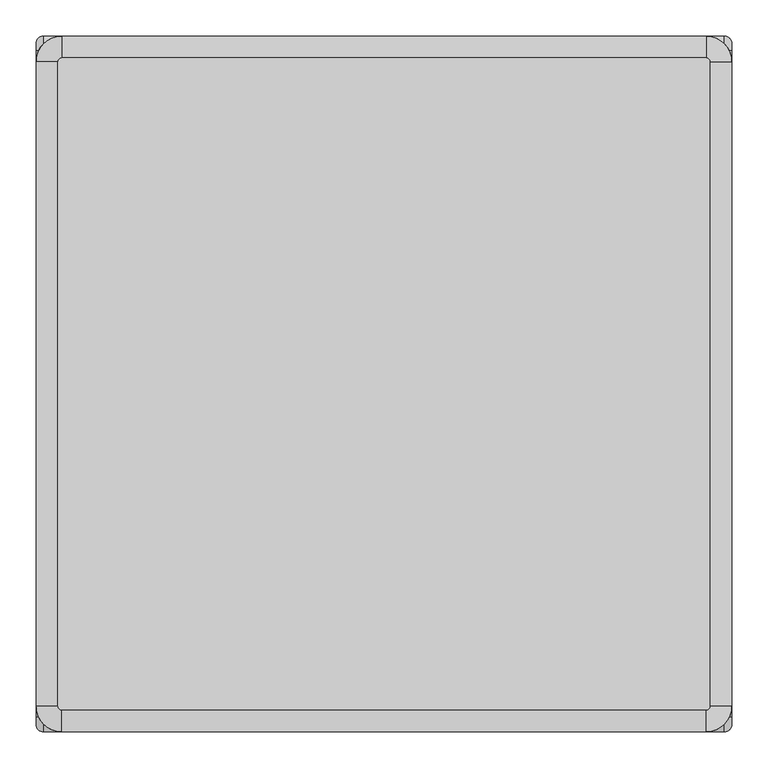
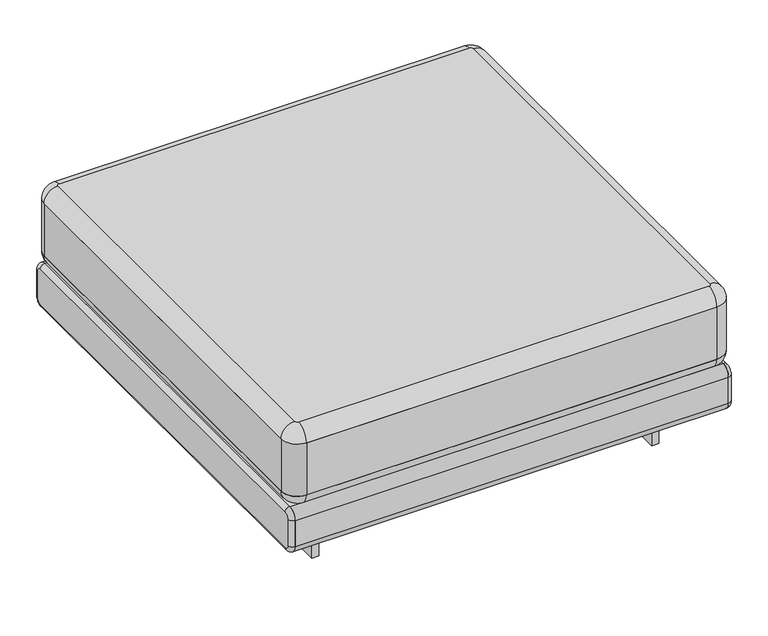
"""IFC4 building model written with IfcOpenShell, lengths in millimetres: furniture geometry, Ottoman_Bensen_Elle_ELS000 : Ottoman_Bensen_Elle_ELS000."""

from ifc_helpers import new_model, si_unit, point, frame, frame_2d, origin, origin_with_axes, place, context, project, spatial, polyline, circle_curve, ellipse_curve, trimmed, segment, composite_curve, outline, extrude, source, transform, mapped, element, save
from ifc_brep_helpers import plane_surface, cylinder_surface, revolved_surface, advanced_brep


def furniture_ca96096a(model_context):
    return source(origin(), model_context, "Body", "SolidModel", [
        advanced_brep(
        [(445.0, -449.9876377, 379.9974), (450.0, -444.9876377, 379.9973967), (450.0, 445.0123623, 379.9967943), (445.0, 450.0123623, 379.9967909), (-445.0, 450.0123623, 379.9967909), (-450.0, 445.0123623, 379.9967943), (-450.0, -444.9876377, 379.9973967), (-445.0, -449.9876377, 379.9974), (480.0, -444.987658, 349.9973967), (445.0, -479.987658, 349.9974203), (-445.0, -479.987658, 349.9974203), (-480.0, -444.987658, 349.9973967), (-480.0, 445.012342, 349.9967943), (-445.0, 480.012342, 349.9967706), (445.0, 480.012342, 349.9967706), (480.0, 445.012342, 349.9967943)],
        [
            (0, 1, circle_curve(frame((445.0, -444.9876377, 379.9973967), z_axis=(0.0, 6.768624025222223e-07, 0.999999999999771), x_axis=(1.0, 0.0, 0.0)), 5.0)),
            (1, 2),
            (2, 3, circle_curve(frame((445.0, 445.0123623, 379.9967943), z_axis=(0.0, 6.768624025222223e-07, 0.999999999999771), x_axis=(0.0, 0.999999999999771, -6.768624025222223e-07)), 5.0)),
            (3, 4),
            (4, 5, circle_curve(frame((-445.0, 445.0123623, 379.9967943), z_axis=(0.0, 6.768624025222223e-07, 0.999999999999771), x_axis=(-1.0, 0.0, 0.0)), 5.0)),
            (5, 6),
            (6, 7, circle_curve(frame((-445.0, -444.9876377, 379.9973967), z_axis=(0.0, 6.768624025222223e-07, 0.999999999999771), x_axis=(0.0, -0.999999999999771, 6.768624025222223e-07)), 5.0)),
            (7, 0),
            (8, 9, circle_curve(frame((445.0, -444.987658, 349.9973967), z_axis=(0.0, -6.768624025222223e-07, -0.999999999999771), x_axis=(1.0, 0.0, 0.0)), 35.0)),
            (9, 10),
            (10, 11, circle_curve(frame((-445.0, -444.987658, 349.9973967), z_axis=(0.0, -6.768624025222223e-07, -0.999999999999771), x_axis=(0.0, -0.999999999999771, 6.768624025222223e-07)), 35.0)),
            (11, 12),
            (12, 13, circle_curve(frame((-445.0, 445.012342, 349.9967943), z_axis=(0.0, -6.768624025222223e-07, -0.999999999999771), x_axis=(-1.0, 0.0, 0.0)), 35.0)),
            (13, 14),
            (14, 15, circle_curve(frame((445.0, 445.012342, 349.9967943), z_axis=(0.0, -6.768624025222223e-07, -0.999999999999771), x_axis=(0.0, 0.999999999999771, -6.768624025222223e-07)), 35.0)),
            (15, 8),
            (8, 1, circle_curve(frame((450.0, -444.987658, 349.9973967), z_axis=(0.0, -0.999999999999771, 6.768624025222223e-07), x_axis=(1.0, 0.0, 0.0)), 30.0)),
            (0, 9, circle_curve(frame((445.0, -449.987658, 349.9974), z_axis=(1.0, 0.0, 0.0), x_axis=(0.0, -0.999999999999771, 6.768624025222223e-07)), 30.0)),
            (7, 10, circle_curve(frame((-445.0, -449.987658, 349.9974), z_axis=(1.0, 0.0, 0.0), x_axis=(0.0, -0.999999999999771, 6.768624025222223e-07)), 30.0)),
            (6, 11, circle_curve(frame((-450.0, -444.987658, 349.9973967), z_axis=(0.0, -0.999999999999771, 6.768624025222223e-07), x_axis=(-1.0, 0.0, 0.0)), 30.0)),
            (5, 12, circle_curve(frame((-450.0, 445.012342, 349.9967943), z_axis=(0.0, -0.999999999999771, 6.768624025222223e-07), x_axis=(-1.0, 0.0, 0.0)), 30.0)),
            (4, 13, circle_curve(frame((-445.0, 450.012342, 349.9967909), z_axis=(-1.0, 0.0, 0.0), x_axis=(0.0, 0.999999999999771, -6.768624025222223e-07)), 30.0)),
            (3, 14, circle_curve(frame((445.0, 450.012342, 349.9967909), z_axis=(-1.0, 0.0, 0.0), x_axis=(0.0, 0.999999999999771, -6.768624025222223e-07)), 30.0)),
            (2, 15, circle_curve(frame((450.0, 445.012342, 349.9967943), z_axis=(0.0, 0.999999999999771, -6.768624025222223e-07), x_axis=(1.0, 0.0, 0.0)), 30.0)),
        ],
        [
            plane_surface(frame((445.0, 440.0123623, 379.9967976), z_axis=(0.0, 6.768624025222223e-07, 0.999999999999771), x_axis=(1.0, 0.0, 0.0))),
            plane_surface(frame((445.0, 440.012342, 349.9967976), z_axis=(0.0, -6.768624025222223e-07, -0.999999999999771), x_axis=(-1.0, 0.0, 0.0))),
            revolved_surface(trimmed(ellipse_curve(frame((450.0, -444.987658, 349.9973967), z_axis=(0.0, 0.999999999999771, -6.768624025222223e-07), x_axis=(1.0, 0.0, 0.0)), 30.0, 30.0), [point((450.0, -444.9876377, 379.9973967))], [point((480.0, -444.987658, 349.9973967))], True, "CARTESIAN"), (445.0, -444.9877731, 179.9973967), (0.0, -6.768624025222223e-07, -0.999999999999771)),
            cylinder_surface(frame((445.0, -449.987658, 349.9974), z_axis=(1.0, 0.0, 0.0), x_axis=(0.0, -0.999999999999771, 6.768624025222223e-07)), 30.0),
            revolved_surface(trimmed(ellipse_curve(frame((-445.0, -449.987658, 349.9974), z_axis=(1.0, 0.0, 0.0), x_axis=(0.0, -0.999999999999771, 6.768624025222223e-07)), 30.0, 30.0), [point((-445.0, -449.9876377, 379.9974))], [point((-445.0, -479.987658, 349.9974203))], True, "CARTESIAN"), (-445.0, -444.9877731, 179.9973967), (0.0, -6.768624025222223e-07, -0.999999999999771)),
            cylinder_surface(frame((-450.0, -444.987658, 349.9973967), z_axis=(0.0, -0.999999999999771, 6.768624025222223e-07), x_axis=(-1.0, 0.0, 0.0)), 30.0),
            revolved_surface(trimmed(ellipse_curve(frame((-450.0, 445.012342, 349.9967943), z_axis=(0.0, -0.999999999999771, 6.768624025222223e-07), x_axis=(-1.0, 0.0, 0.0)), 30.0, 30.0), [point((-450.0, 445.0123623, 379.9967943))], [point((-480.0, 445.012342, 349.9967943))], True, "CARTESIAN"), (-445.0, 445.0122269, 179.9967943), (0.0, -6.768624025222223e-07, -0.999999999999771)),
            cylinder_surface(frame((-445.0, 450.012342, 349.9967909), z_axis=(-1.0, 0.0, 0.0), x_axis=(0.0, 0.999999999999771, -6.768624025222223e-07)), 30.0),
            revolved_surface(trimmed(ellipse_curve(frame((445.0, 450.012342, 349.9967909), z_axis=(-1.0, 0.0, 0.0), x_axis=(0.0, 0.999999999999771, -6.768624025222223e-07)), 30.0, 30.0), [point((445.0, 450.0123623, 379.9967909))], [point((445.0, 480.012342, 349.9967706))], True, "CARTESIAN"), (445.0, 445.0122269, 179.9967943), (0.0, -6.768624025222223e-07, -0.999999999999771)),
            cylinder_surface(frame((450.0, 445.012342, 349.9967943), z_axis=(0.0, 0.999999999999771, -6.768624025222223e-07), x_axis=(1.0, 0.0, 0.0)), 30.0),
        ],
        [
            (0, [[1, 2, 3, 4, 5, 6, 7, 8]]),
            (1, [[9, 10, 11, 12, 13, 14, 15, 16]]),
            (2, [[-9, 17, -1, 18]]),
            (3, [[-18, -8, 19, -10]]),
            (4, [[-19, -7, 20, -11]]),
            (5, [[-20, -6, 21, -12]]),
            (6, [[-21, -5, 22, -13]]),
            (7, [[-22, -4, 23, -14]]),
            (8, [[-23, -3, 24, -15]]),
            (9, [[-17, -16, -24, -2]]),
        ],
    ),
        advanced_brep(
        [(445.0, -479.9877393, 229.9974203), (480.0, -444.9877393, 229.9973967), (480.0, 445.0122607, 229.9967943), (445.0, 480.0122607, 229.9967706), (-445.0, 480.0122607, 229.9967706), (-480.0, 445.0122607, 229.9967943), (-480.0, -444.9877393, 229.9973967), (-445.0, -479.9877393, 229.9974203), (450.0, -444.9877596, 199.9973967), (445.0, -449.9877596, 199.9974), (-445.0, -449.9877596, 199.9974), (-450.0, -444.9877596, 199.9973967), (-450.0, 445.0122404, 199.9967943), (-445.0, 450.0122404, 199.9967909), (445.0, 450.0122404, 199.9967909), (450.0, 445.0122404, 199.9967943)],
        [
            (0, 1, circle_curve(frame((445.0, -444.9877393, 229.9973967), z_axis=(0.0, 6.768624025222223e-07, 0.999999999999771), x_axis=(1.0, 0.0, 0.0)), 35.0)),
            (1, 2),
            (2, 3, circle_curve(frame((445.0, 445.0122607, 229.9967943), z_axis=(0.0, 6.768624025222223e-07, 0.999999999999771), x_axis=(0.0, 0.999999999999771, -6.768624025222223e-07)), 35.0)),
            (3, 4),
            (4, 5, circle_curve(frame((-445.0, 445.0122607, 229.9967943), z_axis=(0.0, 6.768624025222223e-07, 0.999999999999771), x_axis=(-1.0, 0.0, 0.0)), 35.0)),
            (5, 6),
            (6, 7, circle_curve(frame((-445.0, -444.9877393, 229.9973967), z_axis=(0.0, 6.768624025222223e-07, 0.999999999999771), x_axis=(0.0, -0.999999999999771, 6.768624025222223e-07)), 35.0)),
            (7, 0),
            (8, 9, circle_curve(frame((445.0, -444.9877596, 199.9973967), z_axis=(0.0, -6.768624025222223e-07, -0.999999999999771), x_axis=(1.0, 0.0, 0.0)), 5.0)),
            (9, 10),
            (10, 11, circle_curve(frame((-445.0, -444.9877596, 199.9973967), z_axis=(0.0, -6.768624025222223e-07, -0.999999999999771), x_axis=(0.0, -0.999999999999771, 6.768624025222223e-07)), 5.0)),
            (11, 12),
            (12, 13, circle_curve(frame((-445.0, 445.0122404, 199.9967943), z_axis=(0.0, -6.768624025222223e-07, -0.999999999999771), x_axis=(-1.0, 0.0, 0.0)), 5.0)),
            (13, 14),
            (14, 15, circle_curve(frame((445.0, 445.0122404, 199.9967943), z_axis=(0.0, -6.768624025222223e-07, -0.999999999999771), x_axis=(0.0, 0.999999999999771, -6.768624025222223e-07)), 5.0)),
            (15, 8),
            (8, 1, circle_curve(frame((450.0, -444.9877393, 229.9973967), z_axis=(0.0, -0.999999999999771, 6.768624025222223e-07), x_axis=(1.0, 0.0, 0.0)), 30.0)),
            (0, 9, circle_curve(frame((445.0, -449.9877393, 229.9974), z_axis=(1.0, 0.0, 0.0), x_axis=(0.0, -0.999999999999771, 6.768624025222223e-07)), 30.0)),
            (7, 10, circle_curve(frame((-445.0, -449.9877393, 229.9974), z_axis=(1.0, 0.0, 0.0), x_axis=(0.0, -0.999999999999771, 6.768624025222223e-07)), 30.0)),
            (6, 11, circle_curve(frame((-450.0, -444.9877393, 229.9973967), z_axis=(0.0, -0.999999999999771, 6.768624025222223e-07), x_axis=(-1.0, 0.0, 0.0)), 30.0)),
            (5, 12, circle_curve(frame((-450.0, 445.0122607, 229.9967943), z_axis=(0.0, -0.999999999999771, 6.768624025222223e-07), x_axis=(-1.0, 0.0, 0.0)), 30.0)),
            (4, 13, circle_curve(frame((-445.0, 450.0122607, 229.9967909), z_axis=(-1.0, 0.0, 0.0), x_axis=(0.0, 0.999999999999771, -6.768624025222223e-07)), 30.0)),
            (3, 14, circle_curve(frame((445.0, 450.0122607, 229.9967909), z_axis=(-1.0, 0.0, 0.0), x_axis=(0.0, 0.999999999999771, -6.768624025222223e-07)), 30.0)),
            (2, 15, circle_curve(frame((450.0, 445.0122607, 229.9967943), z_axis=(0.0, 0.999999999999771, -6.768624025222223e-07), x_axis=(1.0, 0.0, 0.0)), 30.0)),
        ],
        [
            plane_surface(frame((445.0, 440.0122607, 229.9967976), z_axis=(0.0, 6.768624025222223e-07, 0.999999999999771), x_axis=(1.0, 0.0, 0.0))),
            plane_surface(frame((445.0, 440.0122404, 199.9967976), z_axis=(0.0, -6.768624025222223e-07, -0.999999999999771), x_axis=(-1.0, 0.0, 0.0))),
            revolved_surface(trimmed(ellipse_curve(frame((450.0, -444.9877393, 229.9973967), z_axis=(0.0, 0.999999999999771, -6.768624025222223e-07), x_axis=(1.0, 0.0, 0.0)), 30.0, 30.0), [point((480.0, -444.9877393, 229.9973967))], [point((450.0, -444.9877596, 199.9973967))], True, "CARTESIAN"), (445.0, -444.9877393, 229.9973967), (0.0, -6.768624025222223e-07, -0.999999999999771)),
            cylinder_surface(frame((445.0, -449.9877393, 229.9974), z_axis=(1.0, 0.0, 0.0), x_axis=(0.0, -0.999999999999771, 6.768624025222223e-07)), 30.0),
            revolved_surface(trimmed(ellipse_curve(frame((-445.0, -449.9877393, 229.9974), z_axis=(1.0, 0.0, 0.0), x_axis=(0.0, -0.999999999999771, 6.768624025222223e-07)), 30.0, 30.0), [point((-445.0, -479.9877393, 229.9974203))], [point((-445.0, -449.9877596, 199.9974))], True, "CARTESIAN"), (-445.0, -444.9877393, 229.9973967), (0.0, -6.768624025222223e-07, -0.999999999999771)),
            cylinder_surface(frame((-450.0, -444.9877393, 229.9973967), z_axis=(0.0, -0.999999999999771, 6.768624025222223e-07), x_axis=(-1.0, 0.0, 0.0)), 30.0),
            revolved_surface(trimmed(ellipse_curve(frame((-450.0, 445.0122607, 229.9967943), z_axis=(0.0, -0.999999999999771, 6.768624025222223e-07), x_axis=(-1.0, 0.0, 0.0)), 30.0, 30.0), [point((-480.0, 445.0122607, 229.9967943))], [point((-450.0, 445.0122404, 199.9967943))], True, "CARTESIAN"), (-445.0, 445.0122607, 229.9967943), (0.0, -6.768624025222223e-07, -0.999999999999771)),
            cylinder_surface(frame((-445.0, 450.0122607, 229.9967909), z_axis=(-1.0, 0.0, 0.0), x_axis=(0.0, 0.999999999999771, -6.768624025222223e-07)), 30.0),
            revolved_surface(trimmed(ellipse_curve(frame((445.0, 450.0122607, 229.9967909), z_axis=(-1.0, 0.0, 0.0), x_axis=(0.0, 0.999999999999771, -6.768624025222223e-07)), 30.0, 30.0), [point((445.0, 480.0122607, 229.9967706))], [point((445.0, 450.0122404, 199.9967909))], True, "CARTESIAN"), (445.0, 445.0122607, 229.9967943), (0.0, -6.768624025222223e-07, -0.999999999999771)),
            cylinder_surface(frame((450.0, 445.0122607, 229.9967943), z_axis=(0.0, 0.999999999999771, -6.768624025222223e-07), x_axis=(1.0, 0.0, 0.0)), 30.0),
        ],
        [
            (0, [[1, 2, 3, 4, 5, 6, 7, 8]]),
            (1, [[9, 10, 11, 12, 13, 14, 15, 16]]),
            (2, [[17, -1, 18, -9]]),
            (3, [[-18, -8, 19, -10]]),
            (4, [[-19, -7, 20, -11]]),
            (5, [[-20, -6, 21, -12]]),
            (6, [[-21, -5, 22, -13]]),
            (7, [[-22, -4, 23, -14]]),
            (8, [[-23, -3, 24, -15]]),
            (9, [[-17, -16, -24, -2]]),
        ],
    ),
        extrude(outline(composite_curve([segment(polyline([(-35.0, -35.0), (-35.0, 855.0)]), True, "CONTINUOUS"), segment(trimmed(circle_curve(frame_2d((0.0, 855.0)), 35.0), [point((-35.0, 855.0))], [point((0.0, 890.0))], False, "CARTESIAN"), True, "CONTINUOUS"), segment(polyline([(0.0, 890.0), (890.0, 890.0)]), True, "CONTINUOUS"), segment(trimmed(circle_curve(frame_2d((890.0, 855.0)), 35.0), [point((890.0, 890.0))], [point((925.0, 855.0))], False, "CARTESIAN"), True, "CONTINUOUS"), segment(polyline([(925.0, 855.0), (925.0, -35.0)]), True, "CONTINUOUS"), segment(trimmed(circle_curve(frame_2d((890.0, -35.0)), 35.0), [point((925.0, -35.0))], [point((890.0, -70.0))], False, "CARTESIAN"), True, "CONTINUOUS"), segment(polyline([(890.0, -70.0), (0.0, -70.0)]), True, "CONTINUOUS"), segment(trimmed(circle_curve(frame_2d((0.0, -35.0)), 35.0), [point((0.0, -70.0))], [point((-35.0, -35.0))], False, "CARTESIAN"), True, "CONTINUOUS")], self_intersect=False)), frame((445.0, 410.0122607, 229.9968179), z_axis=(0.0, 6.768624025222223e-07, 0.999999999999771), x_axis=(-1.0, 0.0, 0.0)), (0.0, 0.0, 1.0), 120.0),
        advanced_brep(
        [(469.9999954, 480.012342, 119.9953981), (469.9999954, 460.0122419, 99.9953981), (469.9999954, -460.0000528, 100.0), (469.9999954, -479.9999527, 120.0), (469.9999954, -479.9999527, 179.9976094), (469.9999954, -459.9999392, 199.9976094), (469.9999954, 460.0123555, 199.9969867), (469.9999954, 480.012342, 179.9969867), (479.9999954, 460.0122919, 109.9953981), (479.9999954, 470.012342, 119.9953981), (479.9999954, 470.012342, 179.9969867), (479.9999954, 460.0123487, 189.9969867), (479.9999954, -459.9999348, 189.9976094), (479.9999954, -469.9999527, 179.9976094), (479.9999954, -469.9999527, 120.0000142), (479.9999954, -460.0000027, 110.0)],
        [
            (0, 1, circle_curve(frame((469.9999954, 460.012342, 119.9953981), z_axis=(-1.0, 0.0, 0.0), x_axis=(0.0, 1.0, 0.0)), 20.0)),
            (1, 2),
            (2, 3, circle_curve(frame((469.9999954, -459.9999527, 120.0), z_axis=(-1.0, 0.0, 0.0), x_axis=(0.0, -5.0019594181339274e-06, -0.9999999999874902)), 20.0)),
            (3, 4),
            (4, 5, circle_curve(frame((469.9999954, -459.9999527, 179.9976094), z_axis=(-1.0, 0.0, 0.0), x_axis=(0.0, -1.0, 0.0)), 20.0)),
            (5, 6),
            (6, 7, circle_curve(frame((469.9999954, 460.012342, 179.9969867), z_axis=(-1.0, 0.0, 0.0), x_axis=(0.0, 6.768624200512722e-07, 0.999999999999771)), 20.0)),
            (7, 0),
            (8, 9, circle_curve(frame((479.9999954, 460.012342, 119.9953981), z_axis=(1.0, 0.0, 0.0), x_axis=(0.0, 1.0, 0.0)), 10.0)),
            (9, 10),
            (10, 11, circle_curve(frame((479.9999954, 460.012342, 179.9969867), z_axis=(1.0, 0.0, 0.0), x_axis=(0.0, 6.768624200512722e-07, 0.999999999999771)), 10.0)),
            (11, 12),
            (12, 13, circle_curve(frame((479.9999954, -459.9999527, 179.9976094), z_axis=(1.0, 0.0, 0.0), x_axis=(0.0, -1.0, 0.0)), 10.0)),
            (13, 14),
            (14, 15, circle_curve(frame((479.9999954, -459.9999527, 120.0), z_axis=(1.0, 0.0, 0.0), x_axis=(0.0, -5.0019594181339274e-06, -0.9999999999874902)), 10.0)),
            (15, 8),
            (0, 9, circle_curve(frame((469.9999954, 470.012342, 119.9953981), z_axis=(0.0, 0.0, -1.0), x_axis=(1.0, 0.0, 0.0)), 10.0)),
            (8, 1, circle_curve(frame((469.9999954, 460.0122919, 109.9953981), z_axis=(0.0, 0.9999999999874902, -5.001959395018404e-06), x_axis=(1.0, 0.0, 0.0)), 10.0)),
            (15, 2, circle_curve(frame((469.9999954, -460.0000027, 110.0), z_axis=(0.0, 0.9999999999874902, -5.001959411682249e-06), x_axis=(1.0, 0.0, 0.0)), 10.0)),
            (14, 3, circle_curve(frame((469.9999954, -469.9999527, 120.0), z_axis=(0.0, 0.0, -1.0), x_axis=(1.0, 0.0, 0.0)), 10.0)),
            (13, 4, circle_curve(frame((469.9999954, -469.9999527, 179.9976094), z_axis=(0.0, 0.0, -1.0), x_axis=(1.0, 0.0, 0.0)), 10.0)),
            (12, 5, circle_curve(frame((469.9999954, -459.999946, 189.9976094), z_axis=(0.0, -0.999999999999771, 6.768623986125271e-07), x_axis=(1.0, 0.0, 0.0)), 10.0)),
            (11, 6, circle_curve(frame((469.9999954, 460.0123487, 189.9969867), z_axis=(0.0, -0.999999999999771, 6.768624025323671e-07), x_axis=(1.0, 0.0, 0.0)), 10.0)),
            (10, 7, circle_curve(frame((469.9999954, 470.012342, 179.9969867), z_axis=(0.0, 0.0, 1.0), x_axis=(1.0, 0.0, 0.0)), 10.0)),
        ],
        [
            plane_surface(frame((469.9999954, -460.0000027, 110.0), z_axis=(-1.0, 0.0, 0.0), x_axis=(0.0, -0.9999999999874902, 5.001959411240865e-06))),
            plane_surface(frame((479.9999954, -460.0000027, 110.0), z_axis=(1.0, 0.0, 0.0), x_axis=(0.0, 0.9999999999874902, -5.001959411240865e-06))),
            revolved_surface(trimmed(ellipse_curve(frame((469.9999954, 470.012342, 119.9953981), z_axis=(0.0, 0.0, 1.0), x_axis=(1.0, 0.0, 0.0)), 10.0, 10.0), [point((479.9999954, 470.012342, 119.9953981))], [point((469.9999954, 480.012342, 119.9953981))], True, "CARTESIAN"), (-42.1034011, 460.012342, 119.9953981), (-1.0, 0.0, 0.0)),
            cylinder_surface(frame((469.9999954, 460.0122919, 109.9953981), z_axis=(0.0, 0.9999999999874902, -5.001959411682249e-06), x_axis=(1.0, 0.0, 0.0)), 10.0),
            revolved_surface(trimmed(ellipse_curve(frame((469.9999954, -460.0000027, 110.0), z_axis=(0.0, 0.9999999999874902, -5.001959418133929e-06), x_axis=(1.0, 0.0, 0.0)), 10.0, 10.0), [point((479.9999954, -460.0000027, 110.0))], [point((469.9999954, -460.0000528, 100.0))], True, "CARTESIAN"), (-42.1034011, -459.9999527, 120.0), (-1.0, 0.0, 0.0)),
            cylinder_surface(frame((469.9999954, -469.9999527, 120.0), z_axis=(0.0, 0.0, -1.0), x_axis=(1.0, 0.0, 0.0)), 10.0),
            revolved_surface(trimmed(ellipse_curve(frame((469.9999954, -469.9999527, 179.9976094), z_axis=(0.0, 0.0, -1.0), x_axis=(1.0, 0.0, 0.0)), 10.0, 10.0), [point((479.9999954, -469.9999527, 179.9976094))], [point((469.9999954, -479.9999527, 179.9976094))], True, "CARTESIAN"), (-42.1034011, -459.9999527, 179.9976094), (-1.0, 0.0, 0.0)),
            cylinder_surface(frame((469.9999954, -459.999946, 189.9976094), z_axis=(0.0, -0.999999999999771, 6.768624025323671e-07), x_axis=(1.0, 0.0, 0.0)), 10.0),
            revolved_surface(trimmed(ellipse_curve(frame((469.9999954, 460.0123487, 189.9969867), z_axis=(0.0, -0.999999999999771, 6.768624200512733e-07), x_axis=(1.0, 0.0, 0.0)), 10.0, 10.0), [point((479.9999954, 460.0123487, 189.9969867))], [point((469.9999954, 460.0123555, 199.9969867))], True, "CARTESIAN"), (-42.1034011, 460.012342, 179.9969867), (-1.0, 0.0, 0.0)),
            cylinder_surface(frame((469.9999954, 470.012342, 179.9969867), z_axis=(0.0, 0.0, 1.0), x_axis=(1.0, 0.0, 0.0)), 10.0),
        ],
        [
            (0, [[1, 2, 3, 4, 5, 6, 7, 8]]),
            (1, [[9, 10, 11, 12, 13, 14, 15, 16]]),
            (2, [[-1, 17, -9, 18]]),
            (3, [[-18, -16, 19, -2]]),
            (4, [[-19, -15, 20, -3]]),
            (5, [[-20, -14, 21, -4]]),
            (6, [[-21, -13, 22, -5]]),
            (7, [[-22, -12, 23, -6]]),
            (8, [[-23, -11, 24, -7]]),
            (9, [[-17, -8, -24, -10]]),
        ],
    ),
        advanced_brep(
        [(-470.0, 460.0122419, 99.9953981), (-470.0, 480.012342, 119.9953981), (-470.0, 480.012342, 179.9969867), (-470.0, 460.0123555, 199.9969867), (-470.0, -459.9999392, 199.9976094), (-470.0, -479.9999527, 179.9976094), (-470.0, -479.9999527, 120.0), (-470.0, -460.0000528, 100.0), (-480.0, 470.012342, 119.9953981), (-480.0, 460.0122644, 109.9953981), (-480.0, -460.0000027, 110.0), (-480.0, -469.9999527, 120.0), (-480.0, -469.9999527, 179.9976094), (-480.0, -459.999946, 189.9976094), (-480.0, 460.0123487, 189.9969867), (-480.0, 470.012342, 179.9969867)],
        [
            (0, 1, circle_curve(frame((-470.0, 460.012342, 119.9953981), z_axis=(1.0, 0.0, 0.0), x_axis=(0.0, 1.0, 0.0)), 20.0)),
            (1, 2),
            (2, 3, circle_curve(frame((-470.0, 460.012342, 179.9969867), z_axis=(1.0, 0.0, 0.0), x_axis=(0.0, 6.768624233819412e-07, 0.999999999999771)), 20.0)),
            (3, 4),
            (4, 5, circle_curve(frame((-470.0, -459.9999527, 179.9976094), z_axis=(1.0, 0.0, 0.0), x_axis=(0.0, -1.0, 0.0)), 20.0)),
            (5, 6),
            (6, 7, circle_curve(frame((-470.0, -459.9999527, 120.0), z_axis=(1.0, 0.0, 0.0), x_axis=(0.0, -5.001959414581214e-06, -0.9999999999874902)), 20.0)),
            (7, 0),
            (8, 9, circle_curve(frame((-480.0, 460.012342, 119.9953981), z_axis=(-1.0, 0.0, 0.0), x_axis=(0.0, 1.0, 0.0)), 10.0)),
            (9, 10),
            (10, 11, circle_curve(frame((-480.0, -459.9999527, 120.0), z_axis=(-1.0, 0.0, 0.0), x_axis=(0.0, -5.001959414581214e-06, -0.9999999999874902)), 10.0)),
            (11, 12),
            (12, 13, circle_curve(frame((-480.0, -459.9999527, 179.9976094), z_axis=(-1.0, 0.0, 0.0), x_axis=(0.0, -1.0, 0.0)), 10.0)),
            (13, 14),
            (14, 15, circle_curve(frame((-480.0, 460.012342, 179.9969867), z_axis=(-1.0, 0.0, 0.0), x_axis=(0.0, 6.768624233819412e-07, 0.999999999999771)), 10.0)),
            (15, 8),
            (8, 1, circle_curve(frame((-470.0, 470.012342, 119.9953981), z_axis=(0.0, 0.0, -1.0), x_axis=(-1.0, 0.0, 0.0)), 10.0)),
            (0, 9, circle_curve(frame((-470.0, 460.0122919, 109.9953981), z_axis=(0.0, 0.9999999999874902, -5.001959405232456e-06), x_axis=(-1.0, 0.0, 0.0)), 10.0)),
            (7, 10, circle_curve(frame((-470.0, -460.0000027, 110.0), z_axis=(0.0, 0.9999999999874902, -5.001959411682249e-06), x_axis=(-1.0, 0.0, 0.0)), 10.0)),
            (6, 11, circle_curve(frame((-470.0, -469.9999527, 120.0), z_axis=(0.0, 0.0, -1.0), x_axis=(-1.0, 0.0, 0.0)), 10.0)),
            (5, 12, circle_curve(frame((-470.0, -469.9999527, 179.9976094), z_axis=(0.0, 0.0, -1.0), x_axis=(-1.0, 0.0, 0.0)), 10.0)),
            (4, 13, circle_curve(frame((-470.0, -459.999946, 189.9976094), z_axis=(0.0, -0.999999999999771, 6.768623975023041e-07), x_axis=(-1.0, 0.0, 0.0)), 10.0)),
            (3, 14, circle_curve(frame((-470.0, 460.0123487, 189.9969867), z_axis=(0.0, -0.999999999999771, 6.768624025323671e-07), x_axis=(-1.0, 0.0, 0.0)), 10.0)),
            (2, 15, circle_curve(frame((-470.0, 470.012342, 179.9969867), z_axis=(0.0, 0.0, 1.0), x_axis=(-1.0, 0.0, 0.0)), 10.0)),
        ],
        [
            plane_surface(frame((-470.0, 470.012342, 119.9953981), z_axis=(1.0, 0.0, 0.0), x_axis=(0.0, 0.0, 1.0))),
            plane_surface(frame((-480.0, 470.012342, 119.9953981), z_axis=(-1.0, 0.0, 0.0), x_axis=(0.0, 0.0, -1.0))),
            revolved_surface(trimmed(ellipse_curve(frame((-470.0, 470.012342, 119.9953981), z_axis=(0.0, 0.0, 1.0), x_axis=(-1.0, 0.0, 0.0)), 10.0, 10.0), [point((-470.0, 480.012342, 119.9953981))], [point((-480.0, 470.012342, 119.9953981))], True, "CARTESIAN"), (42.1033965, 460.012342, 119.9953981), (-1.0, 0.0, 0.0)),
            cylinder_surface(frame((-470.0, 460.0122919, 109.9953981), z_axis=(0.0, 0.9999999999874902, -5.001959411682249e-06), x_axis=(-1.0, 0.0, 0.0)), 10.0),
            revolved_surface(trimmed(ellipse_curve(frame((-470.0, -460.0000027, 110.0), z_axis=(0.0, 0.9999999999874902, -5.0019594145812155e-06), x_axis=(-1.0, 0.0, 0.0)), 10.0, 10.0), [point((-470.0, -460.0000528, 100.0))], [point((-480.0, -460.0000027, 110.0))], True, "CARTESIAN"), (42.1033965, -459.9999527, 120.0), (-1.0, 0.0, 0.0)),
            cylinder_surface(frame((-470.0, -469.9999527, 120.0), z_axis=(0.0, 0.0, -1.0), x_axis=(-1.0, 0.0, 0.0)), 10.0),
            revolved_surface(trimmed(ellipse_curve(frame((-470.0, -469.9999527, 179.9976094), z_axis=(0.0, 0.0, -1.0), x_axis=(-1.0, 0.0, 0.0)), 10.0, 10.0), [point((-470.0, -479.9999527, 179.9976094))], [point((-480.0, -469.9999527, 179.9976094))], True, "CARTESIAN"), (42.1033965, -459.9999527, 179.9976094), (-1.0, 0.0, 0.0)),
            cylinder_surface(frame((-470.0, -459.999946, 189.9976094), z_axis=(0.0, -0.999999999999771, 6.768624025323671e-07), x_axis=(-1.0, 0.0, 0.0)), 10.0),
            revolved_surface(trimmed(ellipse_curve(frame((-470.0, 460.0123487, 189.9969867), z_axis=(0.0, -0.999999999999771, 6.768624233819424e-07), x_axis=(-1.0, 0.0, 0.0)), 10.0, 10.0), [point((-470.0, 460.0123555, 199.9969867))], [point((-480.0, 460.0123487, 189.9969867))], True, "CARTESIAN"), (42.1033965, 460.012342, 179.9969867), (-1.0, 0.0, 0.0)),
            cylinder_surface(frame((-470.0, 470.012342, 179.9969867), z_axis=(0.0, 0.0, 1.0), x_axis=(-1.0, 0.0, 0.0)), 10.0),
        ],
        [
            (0, [[1, 2, 3, 4, 5, 6, 7, 8]]),
            (1, [[9, 10, 11, 12, 13, 14, 15, 16]]),
            (2, [[17, -1, 18, -9]]),
            (3, [[-18, -8, 19, -10]]),
            (4, [[-19, -7, 20, -11]]),
            (5, [[-20, -6, 21, -12]]),
            (6, [[-21, -5, 22, -13]]),
            (7, [[-22, -4, 23, -14]]),
            (8, [[-23, -3, 24, -15]]),
            (9, [[-17, -16, -24, -2]]),
        ],
    ),
        extrude(outline(polyline([(-360.9723101, 300.0000473), (-375.9723101, 300.0000473), (-375.9723101, 360.0000473), (-360.9723101, 360.0000473), (-360.9723101, 300.0000473)])), origin_with_axes(), (0.0, 0.0, 1.0), 100.0),
        extrude(outline(polyline([(375.9723055, 300.0000473), (360.9723055, 300.0000473), (360.9723055, 360.0000473), (375.9723055, 360.0000473), (375.9723055, 300.0000473)])), origin_with_axes(), (0.0, 0.0, 1.0), 100.0),
        extrude(outline(polyline([(-360.9723101, -379.9999527), (-375.9723101, -379.9999527), (-375.9723101, -319.9999527), (-360.9723101, -319.9999527), (-360.9723101, -379.9999527)])), origin_with_axes(), (0.0, 0.0, 1.0), 100.0),
        extrude(outline(polyline([(375.9723055, -379.9999527), (360.9723055, -379.9999527), (360.9723055, -319.9999527), (375.9723055, -319.9999527), (375.9723055, -379.9999527)])), origin_with_axes(), (0.0, 0.0, 1.0), 100.0),
        extrude(outline(composite_curve([segment(polyline([(-459.9999392, 199.9976094), (460.0123555, 199.9969867)]), True, "CONTINUOUS"), segment(trimmed(circle_curve(frame_2d((460.012342, 179.9969867)), 20.0), [point((460.0123555, 199.9969867))], [point((480.012342, 179.9969867))], False, "CARTESIAN"), True, "CONTINUOUS"), segment(polyline([(480.012342, 179.9969867), (480.012342, 119.9953981)]), True, "CONTINUOUS"), segment(trimmed(circle_curve(frame_2d((460.012342, 119.9953981)), 20.0), [point((480.012342, 119.9953981))], [point((460.0122419, 99.9953981))], False, "CARTESIAN"), True, "CONTINUOUS"), segment(polyline([(460.0122419, 99.9953981), (-460.0000528, 100.0)]), True, "CONTINUOUS"), segment(trimmed(circle_curve(frame_2d((-459.9999527, 120.0)), 20.0), [point((-460.0000528, 100.0))], [point((-479.9999527, 120.0))], False, "CARTESIAN"), True, "CONTINUOUS"), segment(polyline([(-479.9999527, 120.0), (-479.9999527, 179.9976094)]), True, "CONTINUOUS"), segment(trimmed(circle_curve(frame_2d((-459.9999527, 179.9976094)), 20.0), [point((-479.9999527, 179.9976094))], [point((-459.9999392, 199.9976094))], False, "CARTESIAN"), True, "CONTINUOUS")], self_intersect=False)), frame((-470.0, 0.0, 0.0), z_axis=(1.0, 0.0, 0.0), x_axis=(0.0, 1.0, 0.0)), (0.0, 0.0, 1.0), 939.9999954),
    ])


if __name__ == "__main__":
    model = new_model("IFC4")
    model_context = context("Model", 3, world=origin())
    ifc_project = project(units=[si_unit("LENGTHUNIT", "METRE", prefix="MILLI")], contexts=[model_context])
    site = spatial("IfcSite", under=ifc_project)
    building = spatial("IfcBuilding", under=site)
    placement = place(None, origin())
    furniture_shape = furniture_ca96096a(model_context)
    element("IfcFurniture", 1, ObjectType="Ottoman_Bensen_Elle_ELS000 : Ottoman_Bensen_Elle_ELS000", at=placement, inside=building, context=model_context, shape_type="MappedRepresentation", body=[
        mapped(furniture_shape, transform((0.0, 0.0, 0.0), x_axis=(1.0, 0.0, 0.0), y_axis=(0.0, 1.0, 0.0), z_axis=(0.0, 0.0, 1.0))),
    ])
    save(model, "model.ifc")
